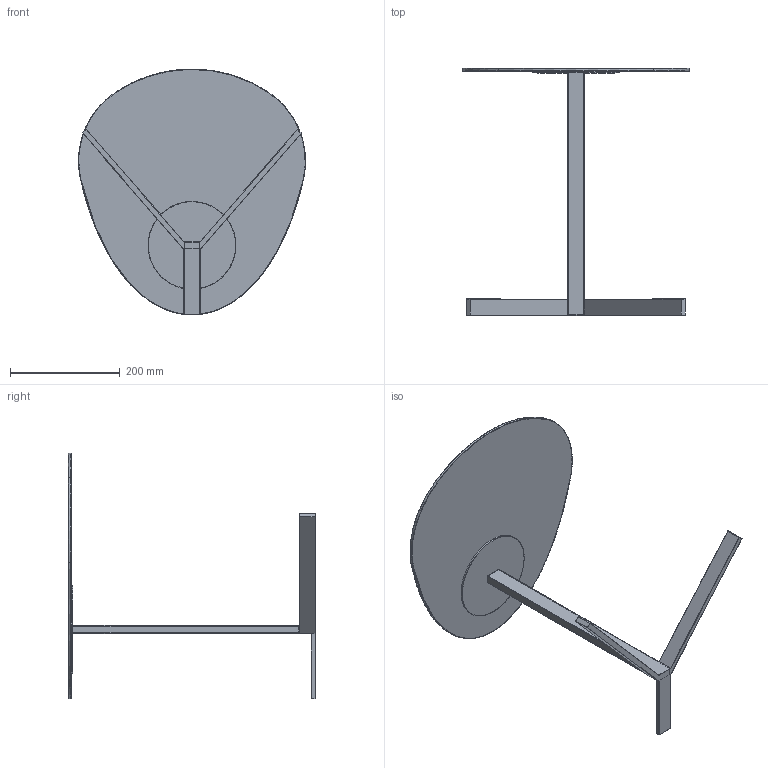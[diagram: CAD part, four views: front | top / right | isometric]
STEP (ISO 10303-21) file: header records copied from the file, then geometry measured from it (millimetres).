
FILE_DESCRIPTION(/* description */ (''),/* implementation_level */ '2;1');
FILE_NAME(/* name */ 'BMXZK9~9',/* time_stamp */ '2020-03-23T13:44:14+01:00',/* author */ (''),/* organization */ (''),/* preprocessor_version */ 'ST-DEVELOPER v15',/* originating_system */ '',/* authorisation */ '');
FILE_SCHEMA (('AUTOMOTIVE_DESIGN'));
Length unit declared in the file: millimetre
Products named in the file (1): Document
Bounding box: 413.43 x 450 x 447.73 mm (x, y, z)
Volume: 60395.5 mm3; surface area: 456727.8 mm2
Topology: 1 solids, 3 shells, 126 faces, 294 edges, 154 vertices
Faces by surface type: bspline 99, plane 27
Entity records: 7393 total; most frequent: CARTESIAN_POINT 5759, ORIENTED_EDGE 546, EDGE_CURVE 282, VERTEX_POINT 154, B_SPLINE_CURVE_WITH_KNOTS 130, EDGE_LOOP 127, ADVANCED_FACE 126, FACE_OUTER_BOUND 126
